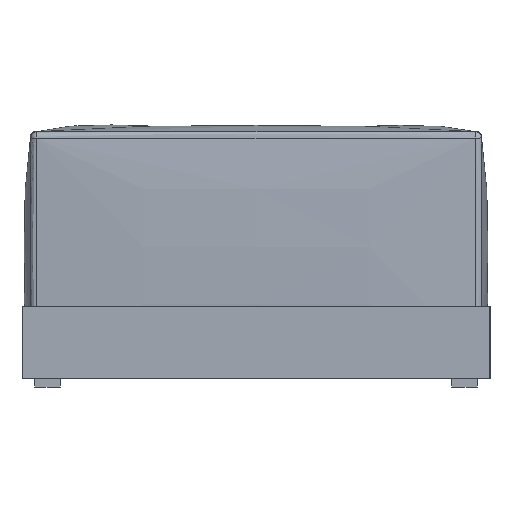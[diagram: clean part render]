
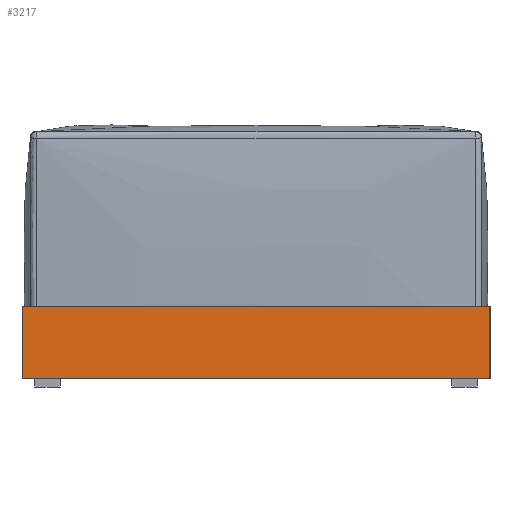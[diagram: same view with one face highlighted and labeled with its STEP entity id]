
A CAD part, left-side view. The second image highlights one B-rep face of the part: STEP entity #3217.
In plain terms, the highlighted planar face has unit normal (-1, 0, 0).
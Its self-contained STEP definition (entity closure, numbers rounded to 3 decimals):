
#495=FACE_OUTER_BOUND('',#747,.T.);
#747=EDGE_LOOP('',(#2187,#2188,#2189,#2190));
#1011=LINE('',#4656,#1211);
#1012=LINE('',#4658,#1212);
#1013=LINE('',#4660,#1213);
#1014=LINE('',#4661,#1214);
#1211=VECTOR('',#3846,10.);
#1212=VECTOR('',#3847,10.);
#1213=VECTOR('',#3848,10.);
#1214=VECTOR('',#3849,10.);
#1403=VERTEX_POINT('',#4654);
#1404=VERTEX_POINT('',#4655);
#1405=VERTEX_POINT('',#4657);
#1406=VERTEX_POINT('',#4659);
#1683=EDGE_CURVE('',#1403,#1404,#1011,.T.);
#1684=EDGE_CURVE('',#1403,#1405,#1012,.T.);
#1685=EDGE_CURVE('',#1406,#1405,#1013,.T.);
#1686=EDGE_CURVE('',#1404,#1406,#1014,.T.);
#2187=ORIENTED_EDGE('',*,*,#1683,.F.);
#2188=ORIENTED_EDGE('',*,*,#1684,.T.);
#2189=ORIENTED_EDGE('',*,*,#1685,.F.);
#2190=ORIENTED_EDGE('',*,*,#1686,.F.);
#3111=PLANE('',#3504);
#3217=ADVANCED_FACE('',(#495),#3111,.T.);
#3504=AXIS2_PLACEMENT_3D('',#4653,#3844,#3845);
#3844=DIRECTION('center_axis',(-1.,0.,0.));
#3845=DIRECTION('ref_axis',(0.,-1.,0.));
#3846=DIRECTION('',(0.,1.,0.));
#3847=DIRECTION('',(0.,0.,1.));
#3848=DIRECTION('',(0.,-1.,0.));
#3849=DIRECTION('',(0.,0.,1.));
#4653=CARTESIAN_POINT('Origin',(-1100.,550.,0.));
#4654=CARTESIAN_POINT('',(-1100.,-550.,0.));
#4655=CARTESIAN_POINT('',(-1100.,550.,0.));
#4656=CARTESIAN_POINT('',(-1100.,-550.,0.));
#4657=CARTESIAN_POINT('',(-1100.,-550.,170.));
#4658=CARTESIAN_POINT('',(-1100.,-550.,0.));
#4659=CARTESIAN_POINT('',(-1100.,550.,170.));
#4660=CARTESIAN_POINT('',(-1100.,-550.,170.));
#4661=CARTESIAN_POINT('',(-1100.,550.,0.));
